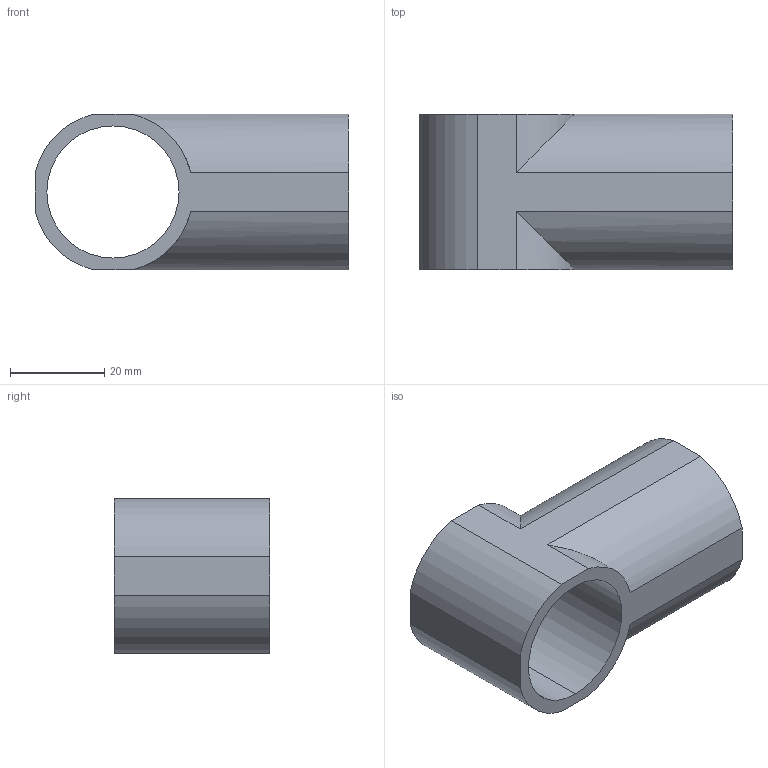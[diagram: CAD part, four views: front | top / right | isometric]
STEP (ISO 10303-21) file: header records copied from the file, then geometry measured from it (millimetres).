
FILE_DESCRIPTION (( 'STEP AP214' ), '1' );
FILE_NAME ('PJ-101B.STEP', '2023-09-12T10:59:06', ( 'catia' ), ( 'HP Inc.' ), 'SwSTEP 2.0', 'SolidWorks 2021', '' );
FILE_SCHEMA (( 'AUTOMOTIVE_DESIGN' ));
Length unit declared in the file: millimetre
Products named in the file (1): PJ-101B
Bounding box: 66.5 x 33 x 33 mm (x, y, z)
Volume: 22754.8 mm3; surface area: 13545.2 mm2
Topology: 1 solids, 1 shells, 21 faces, 54 edges, 36 vertices
Faces by surface type: cylinder 14, plane 7
Entity records: 686 total; most frequent: CARTESIAN_POINT 124, DIRECTION 114, ORIENTED_EDGE 108, EDGE_CURVE 54, AXIS2_PLACEMENT_3D 42, VERTEX_POINT 36, LINE 30, VECTOR 30
